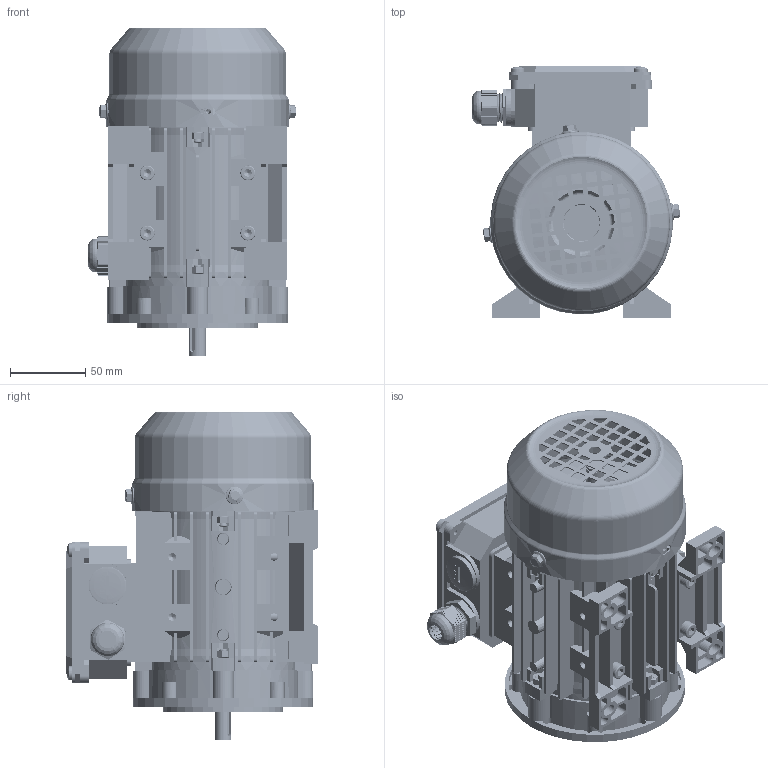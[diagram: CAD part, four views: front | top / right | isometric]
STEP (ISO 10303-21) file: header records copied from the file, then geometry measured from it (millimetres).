
FILE_DESCRIPTION (( 'STEP AP203' ), '1' );
FILE_NAME ('MS-63 B34B 3Dͼ.STEP', '2024-08-22T06:41:54', ( 'User' ), ( 'China' ), 'SwSTEP 2.0', 'SolidWorks 2018', '' );
FILE_SCHEMA (( 'CONFIG_CONTROL_DESIGN' ));
Length unit declared in the file: millimetre
Products named in the file (20): hex flange bolts-heavy grade b gb_GB_FASTENER_BOLT_HFBB M5X10-S; 蹟杶郋M20X1.5; MS63 儂褲; cross recessed pan head screws gb_GB_CROSS_SCREWS_TYPE1 M5X6-6  H type-S; 蹟簸M20X1.5; MS63 B3綴裔; MS63  B14B傷裔; 黑芛20X1.5; deep groove ball bearings gb_Rolling bearings 6201 GB 276-94; MS-63 B34B  3Dͼ; hexagon socket head cap screws gb_GB_FASTENER_SCREWS_HSHCS M5X25-S; MS63 蛌粣; hex nuts, style 1-grades ab gb_GB_FASTENER_NUT_SNAB1 M5-S; 蚐猾24X12X5; spring lock washers--normal type gb_GB_FASTENER_WASHER_SW 5; MS-63 菁褐; hexagon socket head cap screws gb_GB_FASTENER_SCREWS_HSHCS M6X20-S; MS63-71諉盄碟菁釱; MS63 邧脯瑞欶; MS63-71諉盄碟裔
Assembly tree (46 placements, depth 2):
  MS-63 B34B  3Dͼ
    MS63 儂褲
    MS63 B3綴裔
    deep groove ball bearings gb_Rolling bearings 6201 GB 276-94  x2
    MS63 蛌粣
    蚐猾24X12X5  x2
    MS-63 菁褐  x2
    MS63-71諉盄碟菁釱
    MS63-71諉盄碟裔
    蹟杶郋M20X1.5
    蹟簸M20X1.5
    黑芛20X1.5
    hexagon socket head cap screws gb_GB_FASTENER_SCREWS_HSHCS M5X25-S  x8
    hex nuts, style 1-grades ab gb_GB_FASTENER_NUT_SNAB1 M5-S  x7
    spring lock washers--normal type gb_GB_FASTENER_WASHER_SW 5  x4
    hexagon socket head cap screws gb_GB_FASTENER_SCREWS_HSHCS M6X20-S  x4
    MS63 邧脯瑞欶
    hex flange bolts-heavy grade b gb_GB_FASTENER_BOLT_HFBB M5X10-S  x3
    cross recessed pan head screws gb_GB_CROSS_SCREWS_TYPE1 M5X6-6  H type-S  x4
    MS63  B14B傷裔
Bounding box: 138.64 x 167.5 x 218.64 mm (x, y, z)
Volume: 544282.1 mm3; surface area: 417958.7 mm2
Topology: 49 solids, 49 shells, 7851 faces, 18741 edges, 10974 vertices
Faces by surface type: cone 3011, plane 2234, cylinder 2164, torus 216, bspline 170, sphere 56
Entity records: 143412 total; most frequent: CARTESIAN_POINT 47229, ORIENTED_EDGE 20320, DIRECTION 18362, EDGE_CURVE 10160, VERTEX_POINT 6434, AXIS2_PLACEMENT_3D 6387, LINE 5588, VECTOR 5588
